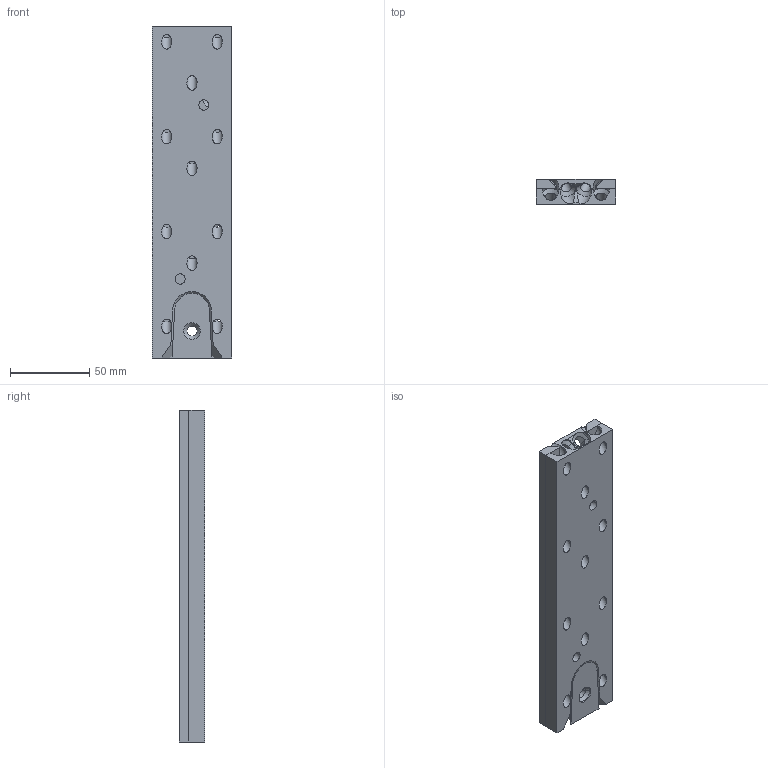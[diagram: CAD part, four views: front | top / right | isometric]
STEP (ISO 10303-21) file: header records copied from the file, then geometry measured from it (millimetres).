
FILE_DESCRIPTION(('STEP AP242'),'1');
FILE_NAME('OPO_86.880.32_volu_3d.stp','2026-04-30T13:30:28',(' '),(' '),'Spatial InterOp 3D',' ',' ');
FILE_SCHEMA(('AP242_MANAGED_MODEL_BASED_3D_ENGINEERING_MIM_LF {1 0 10303 442 1 1 4}'));
Length unit declared in the file: millimetre
Products named in the file (1): 1
Bounding box: 50 x 16 x 210 mm (x, y, z)
Volume: 150568.3 mm3; surface area: 54655.4 mm2
Topology: 2 solids, 2 shells, 291 faces, 720 edges, 434 vertices
Faces by surface type: cylinder 157, cone 66, plane 66, bspline 2
Entity records: 11182 total; most frequent: DIRECTION 1636, CARTESIAN_POINT 1572, ORIENTED_EDGE 1440, EDGE_CURVE 720, AXIS2_PLACEMENT_3D 634, VERTEX_POINT 434, LINE 368, VECTOR 368
